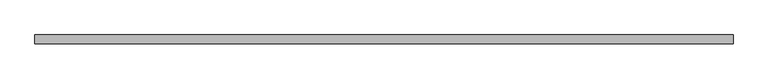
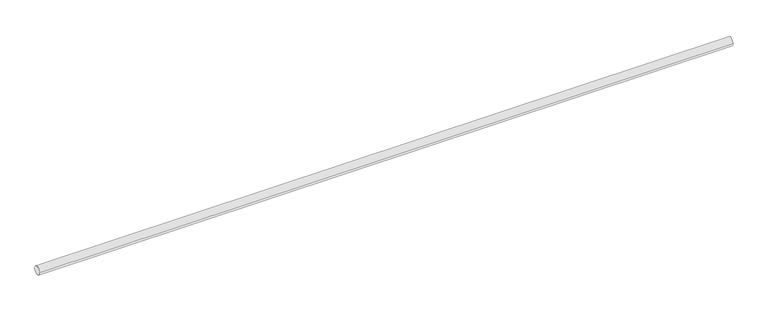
"""IFC4 building model written with IfcOpenShell, lengths in millimetres: cable carrier segment geometry, El281 200963 : El281 200963."""

from ifc_helpers import new_model, si_unit, point, frame, frame_2d, origin, place, context, project, spatial, circle_curve, trimmed, segment, composite_curve, outline, extrude, source, transform, mapped, element, save


def cable_carrier_segment_c5e6cc30(model_context):
    return source(origin(), model_context, "Body", "SweptSolid", [
        extrude(outline(composite_curve([segment(trimmed(circle_curve(frame_2d((14766.3, 2950.0)), 21.5), [point((14744.8, 2950.0))], [point((14787.8, 2950.0))], False, "CARTESIAN"), True, "CONTINUOUS"), segment(trimmed(circle_curve(frame_2d((14766.3, 2950.0)), 21.5), [point((14787.8, 2950.0))], [point((14744.8, 2950.0))], False, "CARTESIAN"), True, "CONTINUOUS")], self_intersect=False)), frame((22221.15, 0.0, 0.0), z_axis=(1.0, 0.0, 0.0), x_axis=(0.0, 1.0, 0.0)), (0.0, 0.0, 1.0), 3454.09),
    ])


if __name__ == "__main__":
    model = new_model("IFC4")
    model_context = context("Model", 3, world=origin())
    ifc_project = project(units=[si_unit("LENGTHUNIT", "METRE", prefix="MILLI")], contexts=[model_context])
    site = spatial("IfcSite", under=ifc_project)
    building = spatial("IfcBuilding", under=site)
    placement = place(None, origin())
    cable_carrier_segment_shape = cable_carrier_segment_c5e6cc30(model_context)
    element("IfcCableCarrierSegment", 1, ObjectType="El281 200963 : El281 200963", at=placement, inside=building, context=model_context, shape_type="MappedRepresentation", body=[
        mapped(cable_carrier_segment_shape, transform((0.0, 0.0, 0.0), x_axis=(1.0, 0.0, 0.0), y_axis=(0.0, 1.0, 0.0), z_axis=(0.0, 0.0, 1.0))),
    ])
    save(model, "model.ifc")
